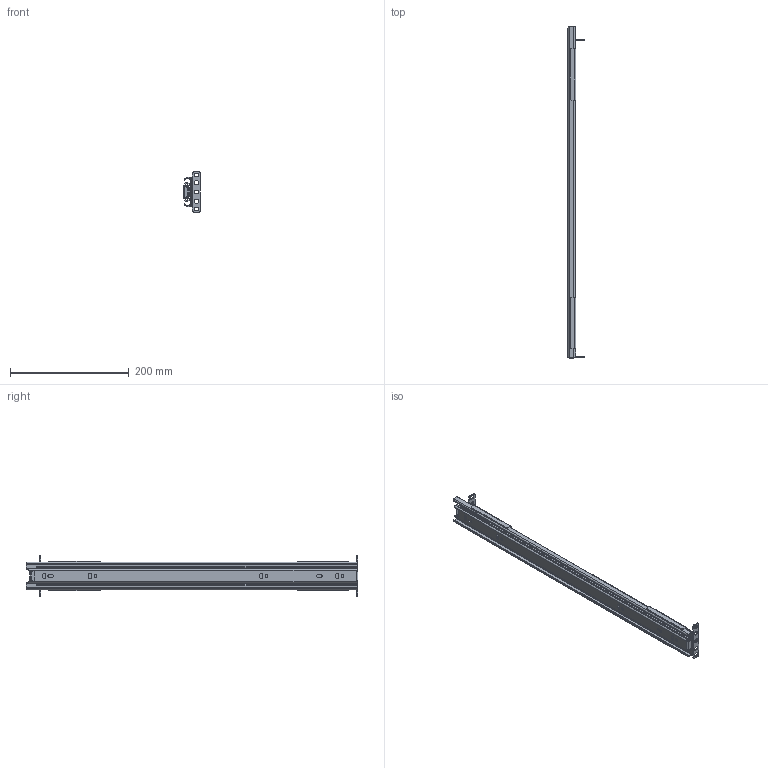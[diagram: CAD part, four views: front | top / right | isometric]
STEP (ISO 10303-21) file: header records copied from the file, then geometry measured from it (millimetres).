
FILE_DESCRIPTION( ( 'Unknown' ), '1' );
FILE_NAME( 'Q:/WEB DRAWINGS/STEP/RSLIDE22.stp', 'Unknown', ( 'Unknown' ), ( 'Unknown' ), 'PSStep 14.0', 'Unknown', ' ' );
FILE_SCHEMA( ( 'AUTOMOTIVE_DESIGN { 1 0 10303 214 1 1 1 1 }' ) );
Length unit declared in the file: millimetre
Products named in the file (6): SLD20007; SLD20007-1; SLD20007-2; SLD20007-3; Assem1; BKT02005
Assembly tree (6 placements, depth 3):
  Assem1
    BKT02005  x2
    SLD20007
      SLD20007-1
      SLD20007-2
      SLD20007-3
Bounding box: 28.57 x 558.8 x 68.01 mm (x, y, z)
Volume: 136744.4 mm3; surface area: 196662.5 mm2
Topology: 5 solids, 5 shells, 287 faces, 818 edges, 541 vertices
Faces by surface type: plane 162, cylinder 125
Full cylindrical faces by diameter (mm): 4.369 x3, 4.572 x4, 6.35 x4
Entity records: 7994 total; most frequent: CARTESIAN_POINT 1321, DIRECTION 1284, ORIENTED_EDGE 1248, EDGE_CURVE 624, AXIS2_PLACEMENT_3D 433, VERTEX_POINT 418, LINE 418, VECTOR 418
